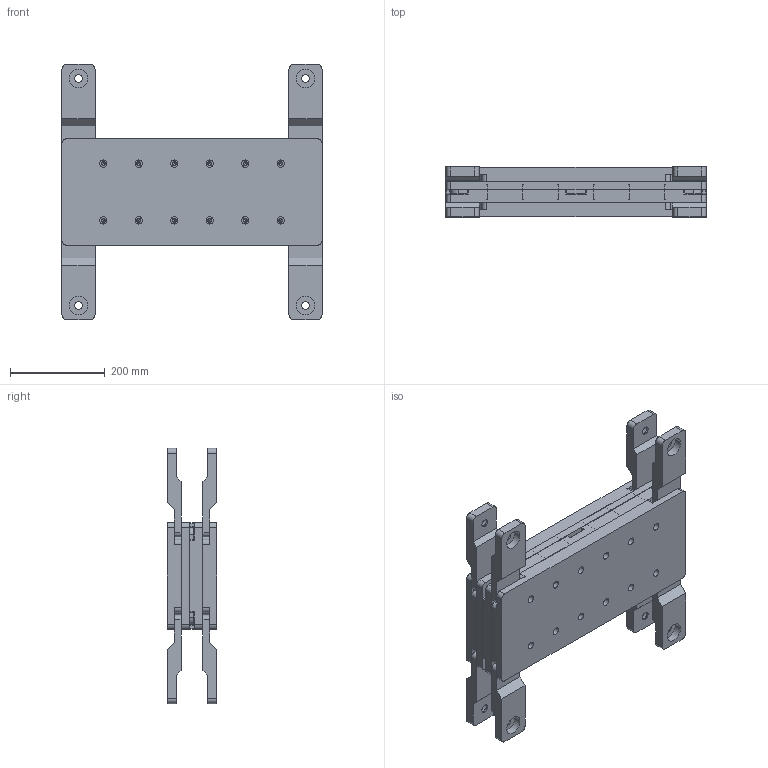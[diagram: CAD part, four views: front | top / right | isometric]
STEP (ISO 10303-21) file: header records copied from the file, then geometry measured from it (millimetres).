
FILE_DESCRIPTION (( 'STEP AP203' ), '1' );
FILE_NAME ('Ôîðìîîáðàçóþùàÿ 3200 Al äëÿ ÍÆÊ.STEP', '2026-04-22T08:56:49', ( '' ), ( '' ), 'SwSTEP 2.0', 'SolidWorks 2024', '' );
FILE_SCHEMA (( 'CONFIG_CONTROL_DESIGN' ));
Length unit declared in the file: millimetre
Products named in the file (8): Н.М.3200Al_Матрица_-00; Н.ВП_Выравнивающая пластина_ ; А011_А010_Изолятор_3200А средний с ребрением; Винт с внутренним шестигранником DIN 912_М8х25; Н.П_Прижим_ ; Винт с внутренним шестигранником DIN 912_М8х16; Формообразующая 3200 Al для НЖК; Н.ПС.3200Al_Пуансон_-00
Assembly tree (38 placements, depth 2):
  Формообразующая 3200 Al для НЖК
    Н.М.3200Al_Матрица_-00
    Н.ПС.3200Al_Пуансон_-00
    Н.ВП_Выравнивающая пластина_   x2
    Н.П_Прижим_   x8
    Винт с внутренним шестигранником DIN 912_М8х16  x13
    Винт с внутренним шестигранником DIN 912_М8х25  x12
    А011_А010_Изолятор_3200А средний с ребрением
Bounding box: 550 x 105 x 540 mm (x, y, z)
Volume: 14483872.9 mm3; surface area: 1711641.9 mm2
Topology: 38 solids, 38 shells, 2549 faces, 5925 edges, 3509 vertices
Faces by surface type: cylinder 948, plane 919, cone 378, torus 288, bspline 16
Entity records: 56001 total; most frequent: CARTESIAN_POINT 10565, DIRECTION 10021, ORIENTED_EDGE 8622, EDGE_CURVE 4311, AXIS2_PLACEMENT_3D 3911, VERTEX_POINT 2535, LINE 2199, VECTOR 2199
